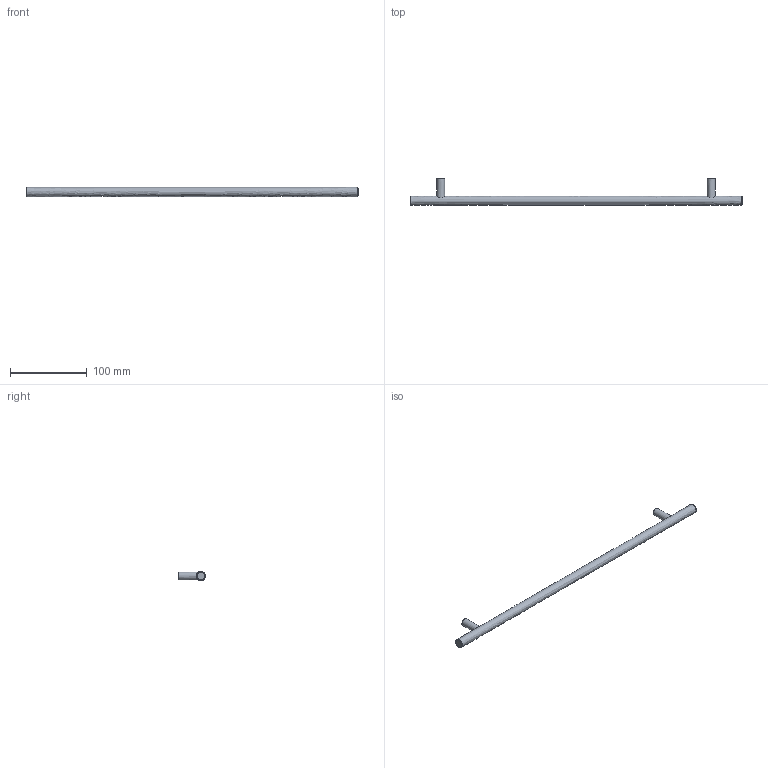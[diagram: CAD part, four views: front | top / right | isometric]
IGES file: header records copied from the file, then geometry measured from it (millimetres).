
Start section: Data from Parasolid IGES Translator 15.0.47, Copyright(c) 2006 Siemens P LM Software. All Rights Reserved.
Global section: file name: 9070758.igs; native system:  By UGS Corp.; preprocessor: XPlus GENERIC/IGES 3.0; author: Noname; organization: Noname; date: 20140123.103912; units: millimetre
Bounding box: 432 x 35 x 12 mm (x, y, z)
Surface area: 18183.8 mm2 (no closed solid volume)
Topology: 0 solids, 0 shells, 13 faces, 42 edges, 34 vertices
Faces by surface type: revolution 7, extrusion 6
